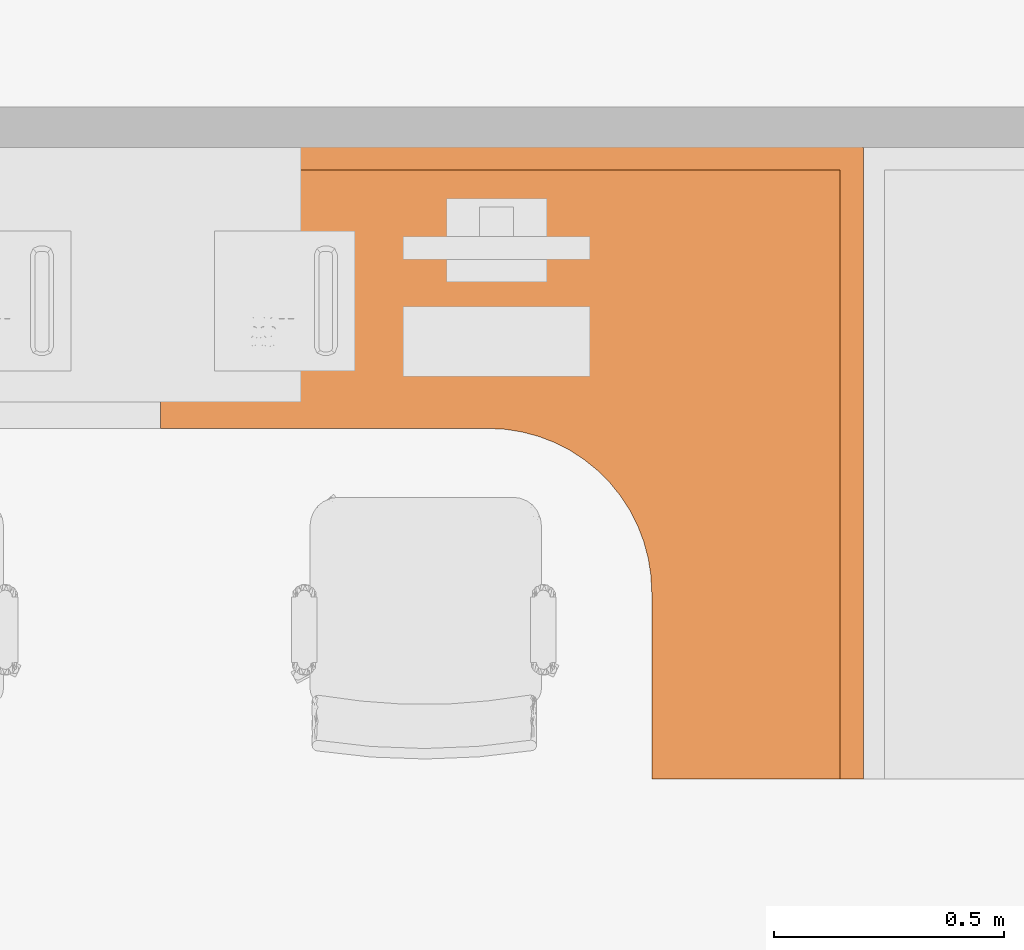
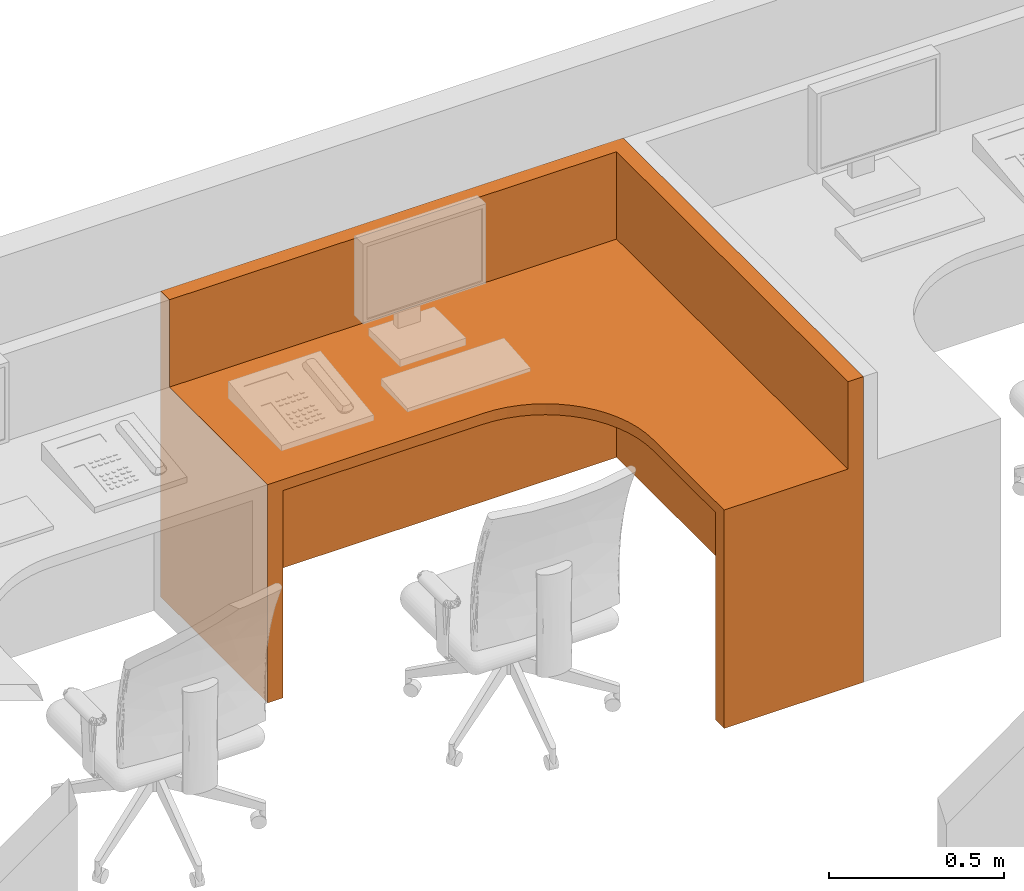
# One storey, part 57 of 142: 1 proxy.
"""IFC2X3 building model written with IfcOpenShell, lengths in feet."""

from ifc_helpers import new_model, entity, si_unit, converted_unit, derived_unit, direction, frame, frame_2d, origin, origin_2d_with_axis, place, context, subcontext, project, spatial, polyline, circle_curve, parameter, trimmed, segment, composite_curve, rectangle, outline, extrude, source, transform, mapped, type_object, type_shapes, element, save


model = new_model("IFC2X3")

# Units and contexts
model_context = context("Model", 3, precision=0.0001, world=origin(), true_north=direction((6.12303176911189e-17, 1.0)))
body_context = subcontext(model_context, "Body", "Model", "MODEL_VIEW")
ifc_project = project(units=[converted_unit("LENGTHUNIT", "FOOT", entity("IfcRatioMeasure", 0.3048), si_unit("LENGTHUNIT", "METRE"), dimensions=[1, 0, 0, 0, 0, 0, 0]), converted_unit("AREAUNIT", "SQUARE FOOT", entity("IfcRatioMeasure", 0.09290304), si_unit("AREAUNIT", "SQUARE_METRE"), dimensions=[2, 0, 0, 0, 0, 0, 0]), converted_unit("VOLUMEUNIT", "CUBIC FOOT", entity("IfcRatioMeasure", 0.028316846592), si_unit("VOLUMEUNIT", "CUBIC_METRE"), dimensions=[3, 0, 0, 0, 0, 0, 0]), converted_unit("PLANEANGLEUNIT", "DEGREE", entity("IfcRatioMeasure", 0.0174532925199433), si_unit("PLANEANGLEUNIT", "RADIAN"), dimensions=[0, 0, 0, 0, 0, 0, 0]), si_unit("MASSUNIT", "GRAM", prefix="KILO"), derived_unit("MASSDENSITYUNIT", [(si_unit("MASSUNIT", "GRAM", prefix="KILO"), 1), (si_unit("LENGTHUNIT", "METRE"), -3)]), si_unit("TIMEUNIT", "SECOND"), si_unit("FREQUENCYUNIT", "HERTZ"), si_unit("THERMODYNAMICTEMPERATUREUNIT", "DEGREE_CELSIUS"), derived_unit("THERMALTRANSMITTANCEUNIT", [(si_unit("MASSUNIT", "GRAM", prefix="KILO"), 1), (si_unit("THERMODYNAMICTEMPERATUREUNIT", "KELVIN"), -1), (si_unit("TIMEUNIT", "SECOND"), -3)]), derived_unit("VOLUMETRICFLOWRATEUNIT", [(si_unit("LENGTHUNIT", "METRE"), 3), (si_unit("TIMEUNIT", "SECOND"), -1)]), si_unit("ELECTRICCURRENTUNIT", "AMPERE"), si_unit("ELECTRICVOLTAGEUNIT", "VOLT"), si_unit("POWERUNIT", "WATT"), si_unit("FORCEUNIT", "NEWTON"), si_unit("ILLUMINANCEUNIT", "LUX"), si_unit("LUMINOUSFLUXUNIT", "LUMEN"), si_unit("LUMINOUSINTENSITYUNIT", "CANDELA"), derived_unit("USERDEFINED", [(si_unit("MASSUNIT", "GRAM", prefix="KILO"), -1), (si_unit("LENGTHUNIT", "METRE"), -2), (si_unit("TIMEUNIT", "SECOND"), 3), (si_unit("LUMINOUSFLUXUNIT", "LUMEN"), 1)]), derived_unit("LINEARVELOCITYUNIT", [(si_unit("LENGTHUNIT", "METRE"), 1), (si_unit("TIMEUNIT", "SECOND"), -1)]), si_unit("PRESSUREUNIT", "PASCAL"), derived_unit("USERDEFINED", [(si_unit("LENGTHUNIT", "METRE"), -2), (si_unit("MASSUNIT", "GRAM", prefix="KILO"), 1), (si_unit("TIMEUNIT", "SECOND"), -2)])], contexts=[model_context])

# Site, building, storey, space
site_placement = place(None, origin())
site = spatial("IfcSite", under=ifc_project, at=site_placement, Name="Default", CompositionType="ELEMENT")
building_placement = place(site_placement, origin())
building = spatial("IfcBuilding", under=site, at=building_placement, Name="OUTPATIENT / PACT CLINIC (Ch. 265)", CompositionType="ELEMENT")
storey_placement = place(building_placement, origin())
storey = spatial("IfcBuildingStorey", under=building, at=storey_placement, Name="LEVEL 1", CompositionType="ELEMENT", Elevation=0.0)
space_placement = place(storey_placement, origin())
space = spatial("IfcSpace", under=storey, at=space_placement, Name="WRTM1", CompositionType="ELEMENT", InteriorOrExteriorSpace="INTERNAL")

# Proxy
building_element_proxy_type = type_object("IfcBuildingElementProxyType", Name="U0075 - Workstation, L-Shaped, Freestanding, 60x54", PredefinedType="NOTDEFINED")
shared_shape = source(origin(), body_context, "Body", "SweptSolid", [
    extrude(rectangle(XDim=0.166666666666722, YDim=2.0, at=frame_2d((-1.3836154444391e-14, 0.0), x_axis=(1.0, 0.0))), frame((0.0833333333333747, -1.0, 0.0), z_axis=(0.0, 0.0, 1.0), x_axis=(-1.0, 0.0, 0.0)), (0.0, 0.0, 1.0), 2.375),
    extrude(rectangle(XDim=0.166666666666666, YDim=1.5, at=frame_2d((0.0, -4.44089209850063e-16), x_axis=(1.0, 0.0))), frame((4.25000000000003, -4.41666666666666, 0.0), z_axis=(0.0, 0.0, 1.0), x_axis=(0.0, 1.0, 0.0)), (0.0, 0.0, 1.0), 2.37499999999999),
    extrude(outline(composite_curve([segment(polyline([(-2.23809523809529, -2.3095238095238), (2.7619047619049, -2.3095238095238)]), True, "CONTINUOUS"), segment(polyline([(2.7619047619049, -2.3095238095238), (2.7619047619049, -0.309523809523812)]), True, "CONTINUOUS"), segment(polyline([(2.7619047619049, -0.309523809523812), (0.428571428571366, -0.309523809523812)]), True, "CONTINUOUS"), segment(trimmed(circle_curve(frame_2d((0.428571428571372, 0.857142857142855), x_axis=(1.0, 0.0)), 1.16666666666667), [parameter(180.0)], [parameter(270.0)], True, "PARAMETER"), False, "CONTINUOUS"), segment(polyline([(-0.738095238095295, 0.857142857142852), (-0.738095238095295, 2.19047619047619)]), True, "CONTINUOUS"), segment(polyline([(-0.738095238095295, 2.19047619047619), (-2.23809523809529, 2.19047619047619)]), True, "CONTINUOUS"), segment(polyline([(-2.23809523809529, 2.19047619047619), (-2.23809523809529, -2.3095238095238)]), True, "CONTINUOUS")], self_intersect=False)), frame((2.76190476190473, -2.30952380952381, 2.37499999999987), z_axis=(0.0, 0.0, 1.0), x_axis=(-1.0, 0.0, 0.0)), (0.0, 0.0, 1.0), 0.125),
    extrude(outline(polyline([(-2.16666666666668, -2.16666666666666), (2.83333333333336, -2.16666666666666), (2.83333333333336, -0.16666666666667), (-0.666666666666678, -0.16666666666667), (-0.666666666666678, 2.33333333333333), (-2.16666666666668, 2.33333333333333), (-2.16666666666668, -2.16666666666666)])), frame((2.83333333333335, -2.16666666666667, 2.37499999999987), z_axis=(0.0, 0.0, 1.0), x_axis=(-1.0, 0.0, 0.0)), (0.0, 0.0, 1.0), 0.125),
    extrude(rectangle(XDim=5.00000000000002, YDim=0.166666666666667, at=origin_2d_with_axis()), frame((2.49999999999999, -0.075000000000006, 0.0), z_axis=(0.0, 0.0, 1.0), x_axis=(-1.0, 0.0, 0.0)), (0.0, 0.0, 1.0), 3.5),
    extrude(rectangle(XDim=4.50000000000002, YDim=0.166666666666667, at=frame_2d((0.0, 4.44089209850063e-16), x_axis=(1.0, 0.0))), frame((4.92500000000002, -2.25000000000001, 0.0), z_axis=(0.0, 0.0, 1.0), x_axis=(0.0, 1.0, 0.0)), (0.0, 0.0, 1.0), 3.5),
])
type_shapes(building_element_proxy_type, [shared_shape])
proxy_placement = place(space_placement, frame((414.359283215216, -876.420519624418, 0.0)))
element("IfcBuildingElementProxy", 1, at=proxy_placement, inside=space, type_object=building_element_proxy_type, Name="U0075 - Workstation, L-Shaped, Freestanding, 60x54:U0075 - Workstation, L-Shaped, Freestanding, 60x54", ObjectType="U0075 - Workstation, L-Shaped, Freestanding, 60x54", context=body_context, shape_type="MappedRepresentation", body=[
    mapped(shared_shape, transform((0.0, 0.0, 0.0), scale=1.0)),
])

save(model, "model.ifc")
